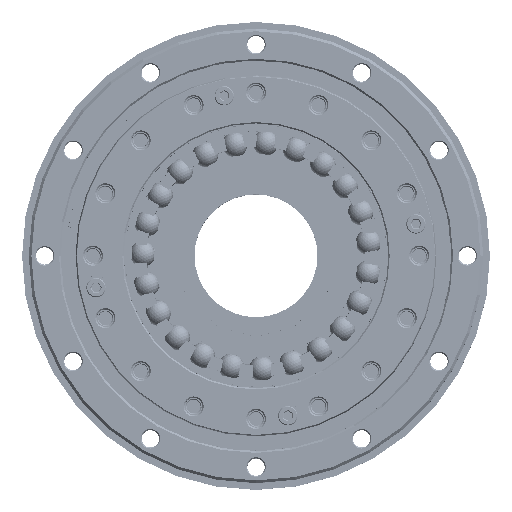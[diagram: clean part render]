
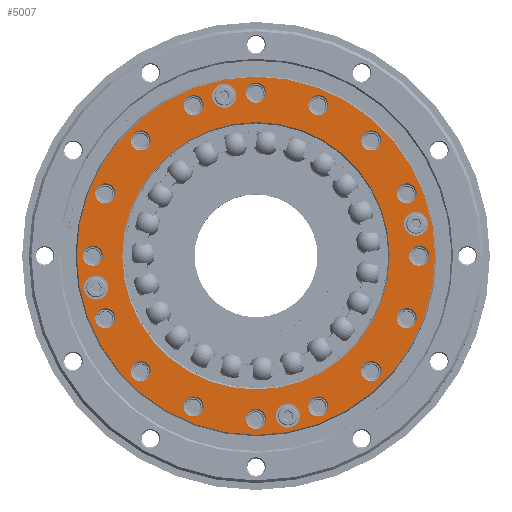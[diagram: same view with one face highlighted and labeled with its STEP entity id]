
A CAD part, top view. The second image highlights one B-rep face of the part: STEP entity #5007.
In plain terms, the highlighted planar face has unit normal (0, 0, 1) as drawn and (0, 0, -1) by its records, which use the part's own axes.
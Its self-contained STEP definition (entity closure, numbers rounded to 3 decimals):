
#4359=PLANE('',#16009);
#5007=ADVANCED_FACE('',(#6181,#6182,#6183,#6184,#6185,#6186,#6187,#6188,
#6189,#6190,#6191,#6192,#6193,#6194,#6195,#6196,#6197,#6198,#6199,#6200,
#6201,#6202),#4359,.F.);
#6181=FACE_BOUND('',#7370,.T.);
#6182=FACE_BOUND('',#7371,.T.);
#6183=FACE_BOUND('',#7372,.T.);
#6184=FACE_BOUND('',#7373,.T.);
#6185=FACE_BOUND('',#7374,.T.);
#6186=FACE_BOUND('',#7375,.T.);
#6187=FACE_BOUND('',#7376,.T.);
#6188=FACE_BOUND('',#7377,.T.);
#6189=FACE_BOUND('',#7378,.T.);
#6190=FACE_BOUND('',#7379,.T.);
#6191=FACE_BOUND('',#7380,.T.);
#6192=FACE_BOUND('',#7381,.T.);
#6193=FACE_BOUND('',#7382,.T.);
#6194=FACE_BOUND('',#7383,.T.);
#6195=FACE_BOUND('',#7384,.T.);
#6196=FACE_BOUND('',#7385,.T.);
#6197=FACE_BOUND('',#7386,.T.);
#6198=FACE_BOUND('',#7387,.T.);
#6199=FACE_BOUND('',#7388,.T.);
#6200=FACE_BOUND('',#7389,.T.);
#6201=FACE_BOUND('',#7390,.T.);
#6202=FACE_BOUND('',#7391,.T.);
#7370=EDGE_LOOP('',(#9981));
#7371=EDGE_LOOP('',(#9982));
#7372=EDGE_LOOP('',(#9983));
#7373=EDGE_LOOP('',(#9984));
#7374=EDGE_LOOP('',(#9985));
#7375=EDGE_LOOP('',(#9986));
#7376=EDGE_LOOP('',(#9987));
#7377=EDGE_LOOP('',(#9988));
#7378=EDGE_LOOP('',(#9989));
#7379=EDGE_LOOP('',(#9990));
#7380=EDGE_LOOP('',(#9991));
#7381=EDGE_LOOP('',(#9992));
#7382=EDGE_LOOP('',(#9993));
#7383=EDGE_LOOP('',(#9994));
#7384=EDGE_LOOP('',(#9995));
#7385=EDGE_LOOP('',(#9996));
#7386=EDGE_LOOP('',(#9997));
#7387=EDGE_LOOP('',(#9998));
#7388=EDGE_LOOP('',(#9999));
#7389=EDGE_LOOP('',(#10000));
#7390=EDGE_LOOP('',(#10001));
#7391=EDGE_LOOP('',(#10002));
#9981=ORIENTED_EDGE('',*,*,#13830,.T.);
#9982=ORIENTED_EDGE('',*,*,#13831,.T.);
#9983=ORIENTED_EDGE('',*,*,#13832,.T.);
#9984=ORIENTED_EDGE('',*,*,#13833,.T.);
#9985=ORIENTED_EDGE('',*,*,#13834,.T.);
#9986=ORIENTED_EDGE('',*,*,#13835,.T.);
#9987=ORIENTED_EDGE('',*,*,#13836,.T.);
#9988=ORIENTED_EDGE('',*,*,#13837,.T.);
#9989=ORIENTED_EDGE('',*,*,#13838,.T.);
#9990=ORIENTED_EDGE('',*,*,#13839,.T.);
#9991=ORIENTED_EDGE('',*,*,#13840,.T.);
#9992=ORIENTED_EDGE('',*,*,#13841,.T.);
#9993=ORIENTED_EDGE('',*,*,#13842,.T.);
#9994=ORIENTED_EDGE('',*,*,#13843,.T.);
#9995=ORIENTED_EDGE('',*,*,#13844,.T.);
#9996=ORIENTED_EDGE('',*,*,#13845,.T.);
#9997=ORIENTED_EDGE('',*,*,#13846,.T.);
#9998=ORIENTED_EDGE('',*,*,#13847,.T.);
#9999=ORIENTED_EDGE('',*,*,#13848,.T.);
#10000=ORIENTED_EDGE('',*,*,#13849,.T.);
#10001=ORIENTED_EDGE('',*,*,#13850,.T.);
#10002=ORIENTED_EDGE('',*,*,#13851,.T.);
#12232=VERTEX_POINT('',#109692);
#12233=VERTEX_POINT('',#109694);
#12234=VERTEX_POINT('',#109696);
#12235=VERTEX_POINT('',#109698);
#12236=VERTEX_POINT('',#109700);
#12237=VERTEX_POINT('',#109702);
#12238=VERTEX_POINT('',#109704);
#12239=VERTEX_POINT('',#109706);
#12240=VERTEX_POINT('',#109708);
#12241=VERTEX_POINT('',#109710);
#12242=VERTEX_POINT('',#109712);
#12243=VERTEX_POINT('',#109714);
#12244=VERTEX_POINT('',#109716);
#12245=VERTEX_POINT('',#109718);
#12246=VERTEX_POINT('',#109720);
#12247=VERTEX_POINT('',#109722);
#12248=VERTEX_POINT('',#109724);
#12249=VERTEX_POINT('',#109726);
#12250=VERTEX_POINT('',#109728);
#12251=VERTEX_POINT('',#109730);
#12252=VERTEX_POINT('',#109732);
#12253=VERTEX_POINT('',#109734);
#13830=EDGE_CURVE('',#12232,#12232,#14958,.T.);
#13831=EDGE_CURVE('',#12233,#12233,#14959,.T.);
#13832=EDGE_CURVE('',#12234,#12234,#14960,.T.);
#13833=EDGE_CURVE('',#12235,#12235,#14961,.T.);
#13834=EDGE_CURVE('',#12236,#12236,#14962,.T.);
#13835=EDGE_CURVE('',#12237,#12237,#14963,.T.);
#13836=EDGE_CURVE('',#12238,#12238,#14964,.T.);
#13837=EDGE_CURVE('',#12239,#12239,#14965,.T.);
#13838=EDGE_CURVE('',#12240,#12240,#14966,.T.);
#13839=EDGE_CURVE('',#12241,#12241,#14967,.T.);
#13840=EDGE_CURVE('',#12242,#12242,#14968,.T.);
#13841=EDGE_CURVE('',#12243,#12243,#14969,.T.);
#13842=EDGE_CURVE('',#12244,#12244,#14970,.T.);
#13843=EDGE_CURVE('',#12245,#12245,#14971,.T.);
#13844=EDGE_CURVE('',#12246,#12246,#14972,.T.);
#13845=EDGE_CURVE('',#12247,#12247,#14973,.T.);
#13846=EDGE_CURVE('',#12248,#12248,#14974,.T.);
#13847=EDGE_CURVE('',#12249,#12249,#14975,.T.);
#13848=EDGE_CURVE('',#12250,#12250,#14976,.T.);
#13849=EDGE_CURVE('',#12251,#12251,#14977,.T.);
#13850=EDGE_CURVE('',#12252,#12252,#14978,.T.);
#13851=EDGE_CURVE('',#12253,#12253,#14979,.T.);
#14958=CIRCLE('',#15987,4.5);
#14959=CIRCLE('',#15988,4.5);
#14960=CIRCLE('',#15989,4.5);
#14961=CIRCLE('',#15990,4.5);
#14962=CIRCLE('',#15991,3.75);
#14963=CIRCLE('',#15992,3.75);
#14964=CIRCLE('',#15993,3.75);
#14965=CIRCLE('',#15994,3.75);
#14966=CIRCLE('',#15995,3.75);
#14967=CIRCLE('',#15996,3.75);
#14968=CIRCLE('',#15997,3.75);
#14969=CIRCLE('',#15998,3.75);
#14970=CIRCLE('',#15999,3.75);
#14971=CIRCLE('',#16000,3.75);
#14972=CIRCLE('',#16001,3.75);
#14973=CIRCLE('',#16002,3.75);
#14974=CIRCLE('',#16003,3.75);
#14975=CIRCLE('',#16004,3.75);
#14976=CIRCLE('',#16005,3.75);
#14977=CIRCLE('',#16006,3.75);
#14978=CIRCLE('',#16007,67.);
#14979=CIRCLE('',#16008,50.);
#15987=AXIS2_PLACEMENT_3D('',#109691,#18437,#18438);
#15988=AXIS2_PLACEMENT_3D('',#109693,#18439,#18440);
#15989=AXIS2_PLACEMENT_3D('',#109695,#18441,#18442);
#15990=AXIS2_PLACEMENT_3D('',#109697,#18443,#18444);
#15991=AXIS2_PLACEMENT_3D('',#109699,#18445,#18446);
#15992=AXIS2_PLACEMENT_3D('',#109701,#18447,#18448);
#15993=AXIS2_PLACEMENT_3D('',#109703,#18449,#18450);
#15994=AXIS2_PLACEMENT_3D('',#109705,#18451,#18452);
#15995=AXIS2_PLACEMENT_3D('',#109707,#18453,#18454);
#15996=AXIS2_PLACEMENT_3D('',#109709,#18455,#18456);
#15997=AXIS2_PLACEMENT_3D('',#109711,#18457,#18458);
#15998=AXIS2_PLACEMENT_3D('',#109713,#18459,#18460);
#15999=AXIS2_PLACEMENT_3D('',#109715,#18461,#18462);
#16000=AXIS2_PLACEMENT_3D('',#109717,#18463,#18464);
#16001=AXIS2_PLACEMENT_3D('',#109719,#18465,#18466);
#16002=AXIS2_PLACEMENT_3D('',#109721,#18467,#18468);
#16003=AXIS2_PLACEMENT_3D('',#109723,#18469,#18470);
#16004=AXIS2_PLACEMENT_3D('',#109725,#18471,#18472);
#16005=AXIS2_PLACEMENT_3D('',#109727,#18473,#18474);
#16006=AXIS2_PLACEMENT_3D('',#109729,#18475,#18476);
#16007=AXIS2_PLACEMENT_3D('',#109731,#18477,#18478);
#16008=AXIS2_PLACEMENT_3D('',#109733,#18479,#18480);
#16009=AXIS2_PLACEMENT_3D('',#109735,#18481,#18482);
#18437=DIRECTION('',(0.,0.,1.));
#18438=DIRECTION('',(1.,0.,0.));
#18439=DIRECTION('',(0.,0.,1.));
#18440=DIRECTION('',(1.,0.,0.));
#18441=DIRECTION('',(0.,0.,1.));
#18442=DIRECTION('',(1.,0.,0.));
#18443=DIRECTION('',(0.,0.,1.));
#18444=DIRECTION('',(1.,0.,0.));
#18445=DIRECTION('',(0.,0.,1.));
#18446=DIRECTION('',(1.,0.,0.));
#18447=DIRECTION('',(0.,0.,1.));
#18448=DIRECTION('',(1.,0.,0.));
#18449=DIRECTION('',(0.,0.,1.));
#18450=DIRECTION('',(1.,0.,0.));
#18451=DIRECTION('',(0.,0.,1.));
#18452=DIRECTION('',(1.,0.,0.));
#18453=DIRECTION('',(0.,0.,1.));
#18454=DIRECTION('',(1.,0.,0.));
#18455=DIRECTION('',(0.,0.,1.));
#18456=DIRECTION('',(1.,0.,0.));
#18457=DIRECTION('',(0.,0.,1.));
#18458=DIRECTION('',(1.,0.,0.));
#18459=DIRECTION('',(0.,0.,1.));
#18460=DIRECTION('',(1.,0.,0.));
#18461=DIRECTION('',(0.,0.,1.));
#18462=DIRECTION('',(1.,0.,0.));
#18463=DIRECTION('',(0.,0.,1.));
#18464=DIRECTION('',(1.,0.,0.));
#18465=DIRECTION('',(0.,0.,1.));
#18466=DIRECTION('',(1.,0.,0.));
#18467=DIRECTION('',(0.,0.,1.));
#18468=DIRECTION('',(1.,0.,0.));
#18469=DIRECTION('',(0.,0.,1.));
#18470=DIRECTION('',(1.,0.,0.));
#18471=DIRECTION('',(0.,0.,1.));
#18472=DIRECTION('',(1.,0.,0.));
#18473=DIRECTION('',(0.,0.,1.));
#18474=DIRECTION('',(1.,0.,0.));
#18475=DIRECTION('',(0.,0.,1.));
#18476=DIRECTION('',(1.,0.,0.));
#18477=DIRECTION('',(0.,0.,-1.));
#18478=DIRECTION('',(1.,0.,0.));
#18479=DIRECTION('',(0.,0.,1.));
#18480=DIRECTION('',(1.,0.,0.));
#18481=DIRECTION('',(0.,0.,1.));
#18482=DIRECTION('',(1.,0.,0.));
#109691=CARTESIAN_POINT('',(-11.901,-59.828,0.));
#109692=CARTESIAN_POINT('',(-7.401,-59.828,0.));
#109693=CARTESIAN_POINT('',(-59.828,11.901,0.));
#109694=CARTESIAN_POINT('',(-55.328,11.901,0.));
#109695=CARTESIAN_POINT('',(11.901,59.828,0.));
#109696=CARTESIAN_POINT('',(16.401,59.828,0.));
#109697=CARTESIAN_POINT('',(59.828,-11.901,0.));
#109698=CARTESIAN_POINT('',(64.328,-11.901,0.));
#109699=CARTESIAN_POINT('',(56.357,23.344,0.));
#109700=CARTESIAN_POINT('',(60.107,23.344,0.));
#109701=CARTESIAN_POINT('',(43.134,43.134,0.));
#109702=CARTESIAN_POINT('',(46.884,43.134,0.));
#109703=CARTESIAN_POINT('',(23.344,56.357,0.));
#109704=CARTESIAN_POINT('',(27.094,56.357,0.));
#109705=CARTESIAN_POINT('',(0.,61.,0.));
#109706=CARTESIAN_POINT('',(3.75,61.,0.));
#109707=CARTESIAN_POINT('',(-23.344,56.357,0.));
#109708=CARTESIAN_POINT('',(-19.594,56.357,0.));
#109709=CARTESIAN_POINT('',(-43.134,43.134,0.));
#109710=CARTESIAN_POINT('',(-39.384,43.134,0.));
#109711=CARTESIAN_POINT('',(-56.357,23.344,0.));
#109712=CARTESIAN_POINT('',(-52.607,23.344,0.));
#109713=CARTESIAN_POINT('',(-61.,0.,0.));
#109714=CARTESIAN_POINT('',(-57.25,0.,0.));
#109715=CARTESIAN_POINT('',(-56.357,-23.344,0.));
#109716=CARTESIAN_POINT('',(-52.607,-23.344,0.));
#109717=CARTESIAN_POINT('',(-43.134,-43.134,0.));
#109718=CARTESIAN_POINT('',(-39.384,-43.134,0.));
#109719=CARTESIAN_POINT('',(-23.344,-56.357,0.));
#109720=CARTESIAN_POINT('',(-19.594,-56.357,0.));
#109721=CARTESIAN_POINT('',(0.,-61.,0.));
#109722=CARTESIAN_POINT('',(3.75,-61.,0.));
#109723=CARTESIAN_POINT('',(23.344,-56.357,0.));
#109724=CARTESIAN_POINT('',(27.094,-56.357,0.));
#109725=CARTESIAN_POINT('',(43.134,-43.134,0.));
#109726=CARTESIAN_POINT('',(46.884,-43.134,0.));
#109727=CARTESIAN_POINT('',(56.357,-23.344,0.));
#109728=CARTESIAN_POINT('',(60.107,-23.344,0.));
#109729=CARTESIAN_POINT('',(61.,0.,0.));
#109730=CARTESIAN_POINT('',(64.75,0.,0.));
#109731=CARTESIAN_POINT('',(0.,0.,0.));
#109732=CARTESIAN_POINT('',(67.,0.,0.));
#109733=CARTESIAN_POINT('',(0.,0.,0.));
#109734=CARTESIAN_POINT('',(50.,0.,0.));
#109735=CARTESIAN_POINT('',(0.,0.,0.));
